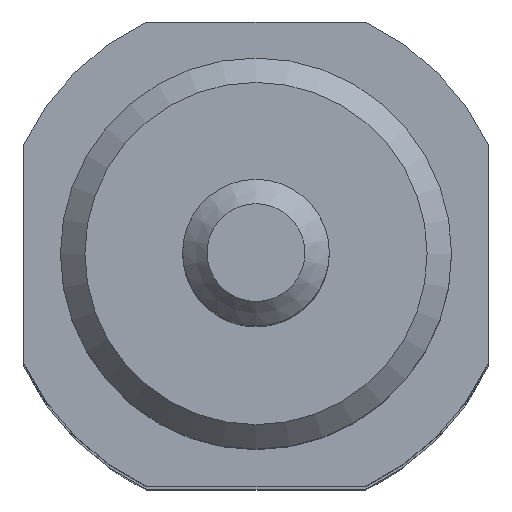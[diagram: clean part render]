
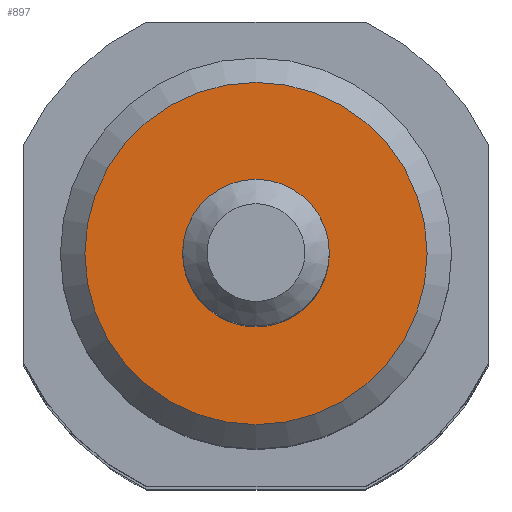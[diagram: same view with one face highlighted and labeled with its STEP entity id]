
A CAD part, top view. The second image highlights one B-rep face of the part: STEP entity #897.
In plain terms, the highlighted planar face has unit normal (0, 0, 1).
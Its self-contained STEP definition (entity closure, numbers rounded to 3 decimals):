
#835=CARTESIAN_POINT('',(7.,0.,115.));
#836=VERTEX_POINT('',#835);
#837=CARTESIAN_POINT('',(0.,0.,115.));
#838=DIRECTION('',(0.0,0.0,-1.0));
#839=DIRECTION('',(-1.0,0.0,0.0));
#840=AXIS2_PLACEMENT_3D('',#837,#838,#839);
#841=CIRCLE('',#840,7.);
#842=EDGE_CURVE('',#836,#836,#841,.T.);
#878=CARTESIAN_POINT('',(0.,0.,115.));
#879=DIRECTION('',(0.0,0.0,-1.0));
#880=DIRECTION('',(-1.0,0.0,0.0));
#881=AXIS2_PLACEMENT_3D('',#878,#879,#880);
#882=PLANE('',#881);
#883=ORIENTED_EDGE('',*,*,#842,.F.);
#884=EDGE_LOOP('',(#883));
#885=FACE_OUTER_BOUND('',#884,.T.);
#886=CARTESIAN_POINT('',(3.,0.,115.));
#887=VERTEX_POINT('',#886);
#888=CARTESIAN_POINT('',(0.,0.,115.));
#889=DIRECTION('',(0.0,0.0,-1.0));
#890=DIRECTION('',(-1.0,0.0,0.0));
#891=AXIS2_PLACEMENT_3D('',#888,#889,#890);
#892=CIRCLE('',#891,3.);
#893=EDGE_CURVE('',#887,#887,#892,.T.);
#894=ORIENTED_EDGE('',*,*,#893,.T.);
#895=EDGE_LOOP('',(#894));
#896=FACE_BOUND('',#895,.T.);
#897=ADVANCED_FACE('',(#885,#896),#882,.F.);
